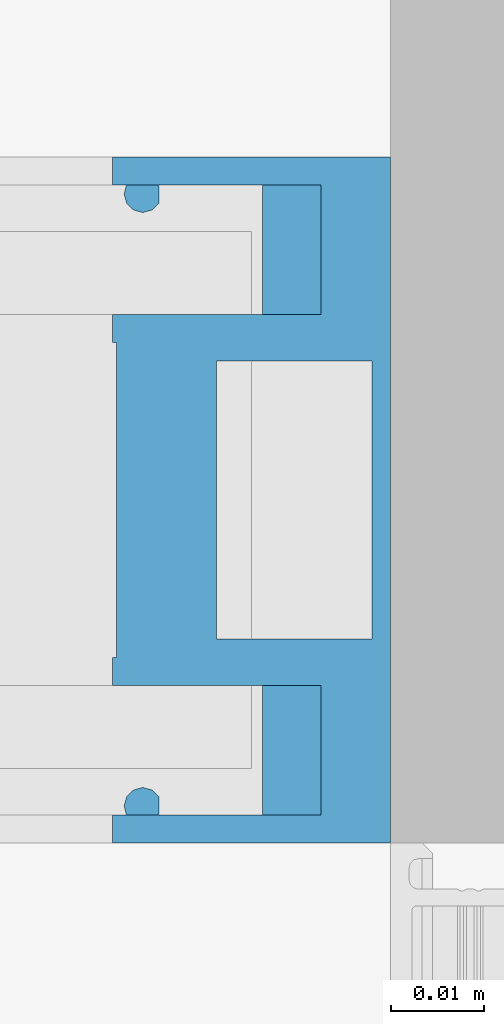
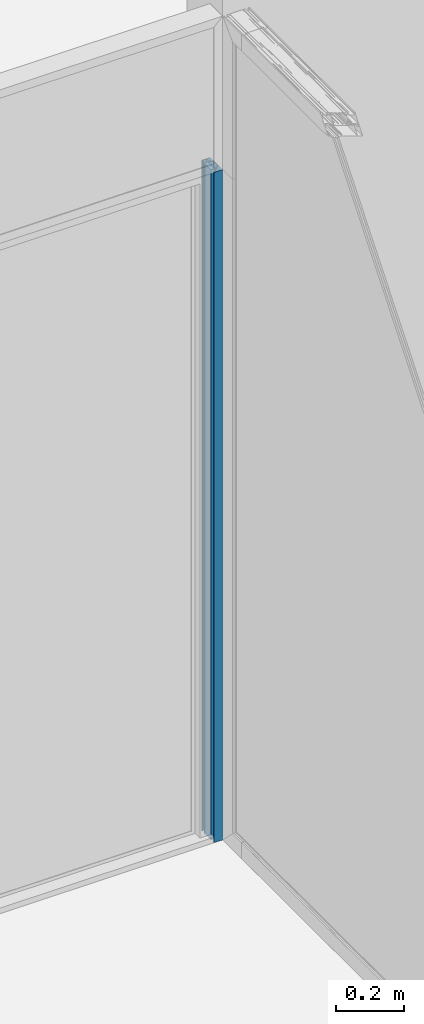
# One storey, part 22 of 62: 2 building element parts, 2 elements without a shape of their own.
"""IFC2X3 building model written with IfcOpenShell, lengths in millimetres."""

import ifcopenshell
import ifcopenshell.guid

model = None  # the IFC model being written
_history = None  # IfcOwnerHistory: only IFC2X3 demands one
_inside = {}  # id of a spatial element -> (the spatial element, [elements in it])
_under = {}  # id of a project, library or spatial element -> (it, [spatial elements below it])
_declared = {}  # id of a project -> (the project, [libraries it declares])
_typed = {}  # id of a type object -> (the type object, [elements of that type])
_made_of = {}  # id of a material, layer set ... -> (it, [elements and type objects made of it])


def new_model(schema):
    """Start an empty IFC model of exactly this schema.

    Asked for "IFC4X3", IfcOpenShell would pick the latest addendum, in which some entities
    have other attributes; the version numbers below select the first issue.
    IFC2X3 requires an IfcOwnerHistory on every rooted entity: one is made here for all.
    """
    global model, _history
    if schema == "IFC4X3":
        model = ifcopenshell.file(schema_version=(4, 3, 0, 0))
    else:
        model = ifcopenshell.file(schema=schema)
    _inside.clear()
    _under.clear()
    _declared.clear()
    _typed.clear()
    _made_of.clear()
    _history = None
    if model.schema == "IFC2X3":
        org = make("IfcOrganization", Name="unknown")
        user = make(
            "IfcPersonAndOrganization",
            ThePerson=make("IfcPerson", FamilyName="unknown"),
            TheOrganization=org,
        )
        app = make(
            "IfcApplication",
            ApplicationDeveloper=org,
            Version="unknown",
            ApplicationFullName="unknown",
            ApplicationIdentifier="unknown",
        )
        _history = make(
            "IfcOwnerHistory",
            OwningUser=user,
            OwningApplication=app,
            ChangeAction="ADDED",
            CreationDate=0,
        )
    return model


def make(cls, **values):
    """One entity of the class cls with the attributes given. An attribute that is None is left unset."""
    return model.create_entity(
        cls, **{name: value for name, value in values.items() if value is not None}
    )


def entity(cls, *values):
    """Any entity or typed value of the class cls, its attributes in the order of the schema. None: left unset."""
    e = model.create_entity(cls)
    for i, value in enumerate(values):
        if value is not None:
            e[i] = value
    return e


def rooted(cls, **values):
    """An entity with a GlobalId (a new one), such as an element, a storey or a relation."""
    return make(cls, GlobalId=ifcopenshell.guid.new(), OwnerHistory=_history, **values)


def si_unit(unit_type, name, prefix=None):
    """IfcSIUnit, for example si_unit("LENGTHUNIT", "METRE", prefix="MILLI")."""
    return make("IfcSIUnit", UnitType=unit_type, Prefix=prefix, Name=name)


def converted_unit(unit_type, name, factor, base, dimensions=None, offset=None):
    """IfcConversionBasedUnit, such as the inch: factor (a typed value) times the base unit."""
    return make(
        "IfcConversionBasedUnit"
        if offset is None
        else "IfcConversionBasedUnitWithOffset",
        ConversionOffset=offset,
        Dimensions=None
        if dimensions is None
        else entity("IfcDimensionalExponents", *dimensions),
        UnitType=unit_type,
        Name=name,
        ConversionFactor=make(
            "IfcMeasureWithUnit", ValueComponent=factor, UnitComponent=base
        ),
    )


def derived_unit(unit_type, elements):
    """IfcDerivedUnit: a product of units, each with its exponent."""
    return make(
        "IfcDerivedUnit",
        Elements=[
            make("IfcDerivedUnitElement", Unit=unit, Exponent=power)
            for unit, power in elements
        ],
        UnitType=unit_type,
    )


def money_unit(currency):
    """IfcMonetaryUnit."""
    return make("IfcMonetaryUnit", Currency=currency)


def assignment(units):
    """IfcUnitAssignment: the units of a project."""
    return None if units is None else make("IfcUnitAssignment", Units=units)


def point(xyz):
    """IfcCartesianPoint."""
    return None if xyz is None else make("IfcCartesianPoint", Coordinates=xyz)


def direction(xyz):
    """IfcDirection."""
    return None if xyz is None else make("IfcDirection", DirectionRatios=xyz)


def frame(location, z_axis=None, x_axis=None):
    """IfcAxis2Placement3D, a coordinate frame: its origin and axes. An axis left out is left unset."""
    return make(
        "IfcAxis2Placement3D",
        Location=point(location),
        Axis=direction(z_axis),
        RefDirection=direction(x_axis),
    )


def origin_with_axes():
    """The frame at (0, 0, 0) with the z axis (0, 0, 1) and the x axis (1, 0, 0) written out."""
    return frame((0.0, 0.0, 0.0), z_axis=(0.0, 0.0, 1.0), x_axis=(1.0, 0.0, 0.0))


def place(relative_to, where):
    """IfcLocalPlacement: puts the frame where relative to a parent placement (None: the world)."""
    return make(
        "IfcLocalPlacement", PlacementRelTo=relative_to, RelativePlacement=where
    )


def context(
    kind, dimensions, precision=None, world=None, true_north=None, identifier=None
):
    """IfcGeometricRepresentationContext, for example the 3D "Model" context."""
    return make(
        "IfcGeometricRepresentationContext",
        ContextIdentifier=identifier,
        ContextType=kind,
        CoordinateSpaceDimension=dimensions,
        Precision=precision,
        WorldCoordinateSystem=world,
        TrueNorth=true_north,
    )


def subcontext(parent, identifier, kind, view, scale=None):
    """IfcGeometricRepresentationSubContext, for example "Body" below "Model"."""
    return make(
        "IfcGeometricRepresentationSubContext",
        ContextIdentifier=identifier,
        ContextType=kind,
        ParentContext=parent,
        TargetScale=scale,
        TargetView=view,
    )


def project(units=None, contexts=None):
    """IfcProject with its units and contexts."""
    return rooted(
        "IfcProject",
        Name="project",
        RepresentationContexts=contexts,
        UnitsInContext=assignment(units),
    )


def spatial(cls, under=None, at=None, **own):
    """A site, building, storey or space (cls), placed at a placement, below another one or the project."""
    s = rooted(cls, ObjectPlacement=at, **own)
    if under is not None:
        _under.setdefault(under.id(), (under, []))[1].append(s)
    return s


def faces_of(points, faces, orient=None, outer=None):
    """IfcFace entities. A face is a list of loops; a loop is a list of indices into points, from 0.

    orient and outer hold one flag for each loop. By default every Orientation is true, the
    first loop of a face is its IfcFaceOuterBound and the others are IfcFaceBound.
    """
    made = []
    for i, loops in enumerate(faces):
        bounds = []
        for j, loop in enumerate(loops):
            is_outer = j == 0 if outer is None else outer[i][j]
            bounds.append(
                make(
                    "IfcFaceOuterBound" if is_outer else "IfcFaceBound",
                    Bound=make("IfcPolyLoop", Polygon=[points[k] for k in loop]),
                    Orientation=True if orient is None else orient[i][j],
                )
            )
        made.append(make("IfcFace", Bounds=bounds))
    return made


def faceted_brep(points, faces, orient=None, outer=None, voids=None):
    """IfcFacetedBrep: a solid bounded by flat faces; with voids (closed shells), ...WithVoids."""
    shared = [point(p) for p in points]
    hull = make("IfcClosedShell", CfsFaces=faces_of(shared, faces, orient, outer))
    if voids is None:
        return make("IfcFacetedBrep", Outer=hull)
    return make(
        "IfcFacetedBrepWithVoids",
        Outer=hull,
        Voids=[
            make(cls, CfsFaces=faces_of(shared, fs, o, b)) for cls, fs, o, b in voids
        ],
    )


def shape(context_of_items, identifier, shape_type, items):
    """IfcShapeRepresentation: the items that make up one representation, for example the "Body"."""
    return make(
        "IfcShapeRepresentation",
        ContextOfItems=context_of_items,
        RepresentationIdentifier=identifier,
        RepresentationType=shape_type,
        Items=items,
    )


def source(mapping_origin, context_of_items, identifier, shape_type, items):
    """IfcRepresentationMap: a shape defined once, which mapped items show again and again."""
    return make(
        "IfcRepresentationMap",
        MappingOrigin=mapping_origin,
        MappedRepresentation=shape(context_of_items, identifier, shape_type, items),
    )


def transform(
    local_origin,
    x_axis=None,
    y_axis=None,
    z_axis=None,
    scale=None,
    scale2=None,
    scale3=None,
    uniform=True,
):
    """IfcCartesianTransformationOperator3D, or its non-uniform kind. x_axis, y_axis, z_axis: its Axis1, 2, 3."""
    if uniform:
        return make(
            "IfcCartesianTransformationOperator3D",
            Axis1=direction(x_axis),
            Axis2=direction(y_axis),
            LocalOrigin=point(local_origin),
            Scale=scale,
            Axis3=direction(z_axis),
        )
    return make(
        "IfcCartesianTransformationOperator3DnonUniform",
        Axis1=direction(x_axis),
        Axis2=direction(y_axis),
        LocalOrigin=point(local_origin),
        Scale=scale,
        Axis3=direction(z_axis),
        Scale2=scale2,
        Scale3=scale3,
    )


def mapped(mapping_source, mapping_target):
    """IfcMappedItem: shows the shape of a source again, moved by a transform."""
    return make(
        "IfcMappedItem", MappingSource=mapping_source, MappingTarget=mapping_target
    )


def material(Name=None, Category=None):
    """IfcMaterial."""
    return make("IfcMaterial", Name=Name, Category=Category)


def made_of(thing, what):
    """Note that an element or type object is made of a material, layer set ...; save() writes the relation."""
    if what is not None:
        _made_of.setdefault(what.id(), (what, []))[1].append(thing)
    return thing


def type_object(cls, material=None, **own):
    """A type object (cls), such as IfcWallType, which elements share."""
    return made_of(rooted(cls, **own), material)


def element(
    cls,
    number,
    at=None,
    inside=None,
    cuts=None,
    type_object=None,
    material=None,
    context=None,
    identifier="Body",
    shape_type=None,
    held_by="IfcProductDefinitionShape",
    body=None,
    shapes=None,
    **own,
):
    """One element of the class cls, such as IfcWall. Its Tag is "e" and its number.

    at: its placement. inside: the storey or other place that contains it. cuts: it is an
    opening in that element (IfcRelVoidsElement). A single representation is given by context,
    identifier, shape_type and body (its items); several are given by shapes. held_by: the class
    of the entity that holds the representations. save() writes the other relations.
    """
    e = rooted(cls, Tag="e%d" % number, ObjectPlacement=at, **own)
    if body is not None:
        shapes = [shape(context, identifier, shape_type, body)]
    if shapes is not None:
        e.Representation = make(held_by, Representations=shapes)
    if inside is not None:
        _inside.setdefault(inside.id(), (inside, []))[1].append(e)
    if cuts is not None:
        rooted(
            "IfcRelVoidsElement", RelatingBuildingElement=cuts, RelatedOpeningElement=e
        )
    if type_object is not None:
        _typed.setdefault(type_object.id(), (type_object, []))[1].append(e)
    return made_of(e, material)


def aggregate(whole, parts):
    """IfcRelAggregates: a whole, such as a stair, and the parts it consists of."""
    return rooted("IfcRelAggregates", RelatingObject=whole, RelatedObjects=parts)


def save(model, path):
    """Write the relations noted so far, then the file.

    IfcRelAggregates (storeys below a building ...), IfcRelContainedInSpatialStructure (elements
    in a storey), IfcRelDefinesByType, IfcRelAssociatesMaterial and IfcRelDeclares: one each for
    every whole, place, type object, material and project.
    """
    for whole, parts in _under.values():
        aggregate(whole, parts)
    for where, things in _inside.values():
        rooted(
            "IfcRelContainedInSpatialStructure",
            RelatedElements=things,
            RelatingStructure=where,
        )
    for kind, things in _typed.values():
        rooted("IfcRelDefinesByType", RelatedObjects=things, RelatingType=kind)
    for what, things in _made_of.values():
        rooted("IfcRelAssociatesMaterial", RelatedObjects=things, RelatingMaterial=what)
    for by, libraries in _declared.values():
        rooted("IfcRelDeclares", RelatingContext=by, RelatedDefinitions=libraries)
    model.write(path)


model = new_model("IFC2X3")

# Units and contexts
model_context = context("Model", 3, precision=0.01, world=origin_with_axes(), true_north=direction((0.0, 1.0)))
body_context = subcontext(model_context, "Body", "Model", "MODEL_VIEW")
ifc_project = project(units=[si_unit("LENGTHUNIT", "METRE", prefix="MILLI"), si_unit("AREAUNIT", "SQUARE_METRE"), si_unit("VOLUMEUNIT", "CUBIC_METRE"), converted_unit("PLANEANGLEUNIT", "DEGREE", entity("IfcPlaneAngleMeasure", 0.0174532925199), si_unit("PLANEANGLEUNIT", "RADIAN"), dimensions=[0, 0, 0, 0, 0, 0, 0]), si_unit("SOLIDANGLEUNIT", "STERADIAN"), money_unit("EUR"), converted_unit("TIMEUNIT", "Year", entity("IfcTimeMeasure", 31556926.0), si_unit("TIMEUNIT", "SECOND"), dimensions=[0, 0, 1, 0, 0, 0, 0]), si_unit("MASSUNIT", "GRAM", prefix="KILO"), si_unit("THERMODYNAMICTEMPERATUREUNIT", "DEGREE_CELSIUS"), si_unit("LUMINOUSINTENSITYUNIT", "LUMEN"), si_unit("ENERGYUNIT", "JOULE", prefix="MEGA"), derived_unit("THERMALCONDUCTANCEUNIT", [(si_unit("POWERUNIT", "WATT"), 1), (si_unit("LENGTHUNIT", "METRE"), -1), (si_unit("THERMODYNAMICTEMPERATUREUNIT", "KELVIN"), -1)]), derived_unit("SPECIFICHEATCAPACITYUNIT", [(si_unit("ENERGYUNIT", "JOULE"), 1), (si_unit("MASSUNIT", "GRAM", prefix="KILO"), -1), (si_unit("THERMODYNAMICTEMPERATUREUNIT", "KELVIN"), -1)]), derived_unit("MASSDENSITYUNIT", [(si_unit("MASSUNIT", "GRAM", prefix="KILO"), 1), (si_unit("VOLUMEUNIT", "CUBIC_METRE"), -1)])], contexts=[model_context])

# Site, building, storey
site_placement = place(None, origin_with_axes())
site = spatial("IfcSite", under=ifc_project, at=site_placement, Name="Puškini 31, Narva", CompositionType="ELEMENT")
building_placement = place(site_placement, origin_with_axes())
building = spatial("IfcBuilding", under=site, at=building_placement, Name="Narva Riigigümnaasium", CompositionType="ELEMENT")
storey_placement = place(building_placement, frame((0.0, 0.0, 660.0), z_axis=(0.0, 0.0, 1.0), x_axis=(1.0, 0.0, 0.0)))
storey = spatial("IfcBuildingStorey", under=building, at=storey_placement, Name="2.korrus +0.66", CompositionType="ELEMENT", Elevation=660.0)

# Curtain wall, member, building element parts
curtain_wall_type = type_object("IfcCurtainWallType", Name="Curtain Wall Type", PredefinedType="NOTDEFINED")
curtain_wall_placement = place(storey_placement, frame((45089.2571373, 223837.000216, -1.99739158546e-06), z_axis=(0.0, 0.0, 1.0), x_axis=(1.0, 0.0, 0.0)))
curtain_wall = element("IfcCurtainWall", 1, at=curtain_wall_placement, inside=storey, type_object=curtain_wall_type, Name="G-SKLF-52")
member_type = type_object("IfcMemberType", Name="30 x 37", PredefinedType="MULLION")
member_placement = place(curtain_wall_placement, frame((2410.74285627, 0.0, 0.0), z_axis=(0.0, 0.0, 1.0), x_axis=(1.0, 0.0, 0.0)))
member = element("IfcMember", 2, at=member_placement, type_object=member_type, Name="G-SKLF-63-raam", ObjectType="MULLION")
aggregate(curtain_wall, [member])
ifc_material_1 = material(Name="Klaasvill")
shared_shape_1 = source(origin_with_axes(), body_context, "Body", "Brep", [
    faceted_brep([(-7.49999990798, 20.000000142, 0.0), (-7.49999990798, 20.000000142, 2400.00003041), (-13.8499999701, 20.000000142, 2400.00003041), (-13.8499999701, 20.000000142, 0.0), (-7.49999990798, 34.0161444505, 0.0), (-7.49999990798, 34.0161444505, 2400.00003041), (-13.8499999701, 34.0161444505, 2400.00003041), (-13.8499999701, 34.0161444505, 0.0)], [[[0, 1, 2, 3]], [[4, 5, 1, 0]], [[1, 5, 6, 2]], [[3, 2, 6, 7]], [[0, 3, 7, 4]], [[7, 6, 5, 4]]]),
    faceted_brep([(-24.987414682, 34.0161444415, 0.0), (-24.987414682, 34.0161444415, 2400.00003041), (-25.004489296, 32.0307503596, 2400.00003041), (-25.004489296, 32.0307503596, 0.0), (-28.5126239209, 34.0161444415, 0.0), (-28.5126239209, 34.0161444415, 2400.00003041), (-28.7655837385, 33.0385325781, 2400.00003041), (-28.4955493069, 32.0307503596, 2400.00003041), (-27.75780152, 31.2930025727, 2400.00003041), (-26.7500193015, 31.0229681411, 2400.00003041), (-25.742237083, 31.2930025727, 2400.00003041), (-25.742237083, 31.2930025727, 0.0), (-26.7500193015, 31.0229681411, 0.0), (-27.75780152, 31.2930025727, 0.0), (-28.4955493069, 32.0307503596, 0.0), (-28.7655837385, 33.0385325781, 0.0)], [[[0, 1, 2, 3]], [[4, 5, 1, 0]], [[1, 5, 6, 7, 8, 9, 10, 2]], [[3, 2, 10, 11]], [[0, 3, 11, 12, 13, 14, 15, 4]], [[15, 6, 5, 4]], [[14, 7, 6, 15]], [[13, 8, 7, 14]], [[12, 9, 8, 13]], [[11, 10, 9, 12]]]),
    faceted_brep([(-7.49999990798, -19.9999997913, 0.0), (-7.49999990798, -19.9999997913, 2400.00003041), (-7.49999990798, -34.0161445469, 2400.00003041), (-7.49999990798, -34.0161445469, 0.0), (-13.8499999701, -19.9999997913, 0.0), (-13.8499999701, -19.9999997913, 2400.00003041), (-13.8499999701, -34.0161445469, 2400.00003041), (-13.8499999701, -34.0161445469, 0.0)], [[[0, 1, 2, 3]], [[4, 5, 1, 0]], [[1, 5, 6, 2]], [[3, 2, 6, 7]], [[0, 3, 7, 4]], [[7, 6, 5, 4]]]),
    faceted_brep([(-25.004489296, -32.0307503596, 0.0), (-25.004489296, -32.0307503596, 2400.00003041), (-24.987414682, -34.0161444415, 2400.00003041), (-24.987414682, -34.0161444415, 0.0), (-25.742237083, -31.2930025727, 0.0), (-25.742237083, -31.2930025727, 2400.00003041), (-26.7500193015, -31.0229681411, 2400.00003041), (-27.75780152, -31.2930025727, 2400.00003041), (-28.4955493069, -32.0307503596, 2400.00003041), (-28.7655837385, -33.0385325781, 2400.00003041), (-28.5126239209, -34.0161444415, 2400.00003041), (-28.5126239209, -34.0161444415, 0.0), (-28.7655837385, -33.0385325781, 0.0), (-28.4955493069, -32.0307503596, 0.0), (-27.75780152, -31.2930025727, 0.0), (-26.7500193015, -31.0229681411, 0.0)], [[[0, 1, 2, 3]], [[4, 5, 1, 0]], [[1, 5, 6, 7, 8, 9, 10, 2]], [[3, 2, 10, 11]], [[0, 3, 11, 12, 13, 14, 15, 4]], [[15, 6, 5, 4]], [[14, 7, 6, 15]], [[13, 8, 7, 14]], [[12, 9, 8, 13]], [[11, 10, 9, 12]]]),
])
building_element_part_1_placement = place(member_placement, origin_with_axes())
building_element_part_1 = element("IfcBuildingElementPart", 3, at=building_element_part_1_placement, material=ifc_material_1, Name="Klaasvill", context=body_context, shape_type="MappedRepresentation", body=[
    mapped(shared_shape_1, transform((0.0, 0.0, 0.0))),
])
ifc_material_2 = material(Name="Teras RAL7012")
shared_shape_2 = source(origin_with_axes(), body_context, "Body", "Brep", [
    faceted_brep([(0.0, -17.0000000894, 0.0), (0.0, -17.0000000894, 2400.00003041), (-29.5999996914, -17.0000000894, 2400.00003041), (-29.5999996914, -17.0000000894, 0.0), (0.0, 17.0000000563, 0.0), (0.0, 17.0000000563, 2400.00003041), (-29.5999996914, 17.0000000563, 2400.00003041), (-1.9999999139, 15.0000001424, 2400.00003041), (-1.9999999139, -15.0000001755, 2400.00003041), (-18.7999996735, -15.0000001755, 2400.00003041), (-18.7999996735, 15.0000001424, 2400.00003041), (-29.5999996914, 17.0000000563, 0.0), (-1.9999999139, 15.0000001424, 0.0), (-18.7999996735, 15.0000001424, 0.0), (-18.7999996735, -15.0000001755, 0.0), (-1.9999999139, -15.0000001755, 0.0)], [[[0, 1, 2, 3]], [[4, 5, 1, 0]], [[1, 5, 6, 2], [7, 8, 9, 10]], [[3, 2, 6, 11]], [[0, 3, 11, 4], [12, 13, 14, 15]], [[11, 6, 5, 4]], [[15, 8, 7, 12]], [[14, 9, 8, 15]], [[13, 10, 9, 14]], [[12, 7, 10, 13]]]),
    faceted_brep([(0.0, 17.0, 0.0), (0.0, 17.0, 2400.00003041), (-29.5999996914, 17.0000000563, 2400.00003041), (-29.5999996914, 17.0000000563, 0.0), (0.0, 37.0, 0.0), (0.0, 37.0, 2400.00003041), (-30.0000193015, 37.0, 2400.00003041), (-30.0000193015, 34.0161444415, 2400.00003041), (-28.5126239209, 34.0161444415, 2400.00003041), (-24.987414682, 34.0161444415, 2400.00003041), (-13.8499999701, 34.0161444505, 2400.00003041), (-7.49999999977, 34.0161444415, 2400.00003041), (-7.49999999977, 20.0, 2400.00003041), (-13.8499999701, 20.000000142, 2400.00003041), (-30.0000193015, 20.0, 2400.00003041), (-30.0000193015, 17.0, 2400.00003041), (-30.0000193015, 17.0, 0.0), (-30.0000193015, 20.0, 0.0), (-13.8499999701, 20.000000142, 0.0), (-7.49999999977, 20.0, 0.0), (-7.49999999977, 34.0161444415, 0.0), (-13.8499999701, 34.0161444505, 0.0), (-24.987414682, 34.0161444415, 0.0), (-28.5126239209, 34.0161444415, 0.0), (-30.0000193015, 34.0161444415, 0.0), (-30.0000193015, 37.0, 0.0)], [[[0, 1, 2, 3]], [[4, 5, 1, 0]], [[1, 5, 6, 7, 8, 9, 10, 11, 12, 13, 14, 15, 2]], [[3, 2, 15, 16]], [[0, 3, 16, 17, 18, 19, 20, 21, 22, 23, 24, 25, 4]], [[25, 6, 5, 4]], [[24, 7, 6, 25]], [[23, 8, 7, 24]], [[22, 9, 8, 23]], [[21, 10, 9, 22]], [[20, 11, 10, 21]], [[19, 12, 11, 20]], [[18, 13, 12, 19]], [[17, 14, 13, 18]], [[16, 15, 14, 17]]]),
    faceted_brep([(0.0, -17.0, 0.0), (0.0, -17.0, 2400.00003041), (0.0, -37.0, 2400.00003041), (0.0, -37.0, 0.0), (-29.5999996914, -17.0000000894, 0.0), (-29.5999996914, -17.0000000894, 2400.00003041), (-30.0000193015, -17.0, 2400.00003041), (-30.0000193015, -20.0, 2400.00003041), (-13.8499999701, -19.9999997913, 2400.00003041), (-7.49999999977, -20.0, 2400.00003041), (-7.49999999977, -34.0161444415, 2400.00003041), (-13.8499999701, -34.0161445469, 2400.00003041), (-24.987414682, -34.0161444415, 2400.00003041), (-28.5126239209, -34.0161444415, 2400.00003041), (-30.0000193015, -34.0161444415, 2400.00003041), (-30.0000193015, -37.0, 2400.00003041), (-30.0000193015, -37.0, 0.0), (-30.0000193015, -34.0161444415, 0.0), (-28.5126239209, -34.0161444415, 0.0), (-24.987414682, -34.0161444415, 0.0), (-13.8499999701, -34.0161445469, 0.0), (-7.49999999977, -34.0161444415, 0.0), (-7.49999999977, -20.0, 0.0), (-13.8499999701, -19.9999997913, 0.0), (-30.0000193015, -20.0, 0.0), (-30.0000193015, -17.0, 0.0)], [[[0, 1, 2, 3]], [[4, 5, 1, 0]], [[1, 5, 6, 7, 8, 9, 10, 11, 12, 13, 14, 15, 2]], [[3, 2, 15, 16]], [[0, 3, 16, 17, 18, 19, 20, 21, 22, 23, 24, 25, 4]], [[25, 6, 5, 4]], [[24, 7, 6, 25]], [[23, 8, 7, 24]], [[22, 9, 8, 23]], [[21, 10, 9, 22]], [[20, 11, 10, 21]], [[19, 12, 11, 20]], [[18, 13, 12, 19]], [[17, 14, 13, 18]], [[16, 15, 14, 17]]]),
])
building_element_part_2_placement = place(member_placement, origin_with_axes())
building_element_part_2 = element("IfcBuildingElementPart", 4, at=building_element_part_2_placement, material=ifc_material_2, Name="Teras RAL7012", context=body_context, shape_type="MappedRepresentation", body=[
    mapped(shared_shape_2, transform((0.0, 0.0, 0.0))),
])
aggregate(member, [building_element_part_1, building_element_part_2])

save(model, "model.ifc")
